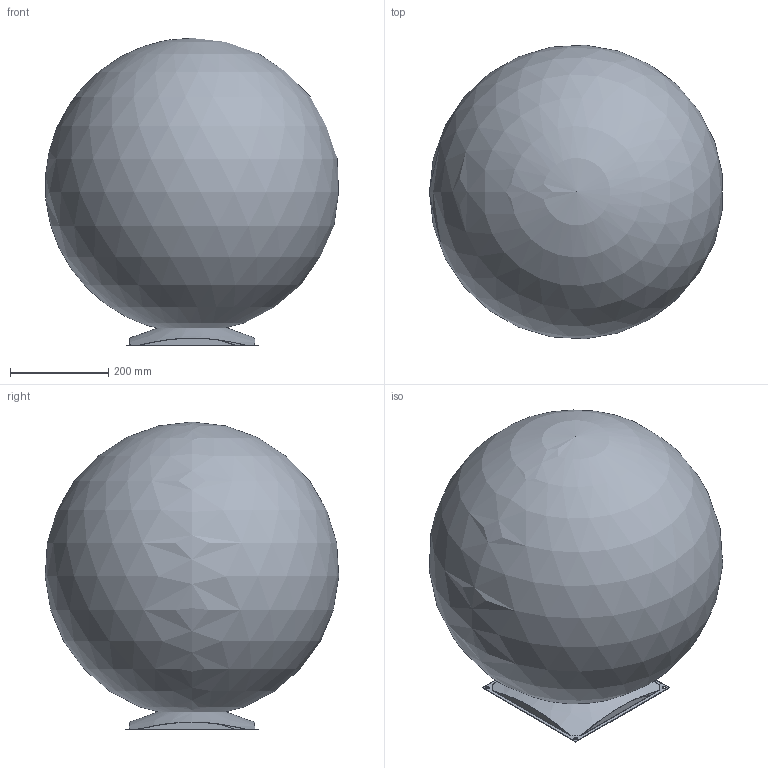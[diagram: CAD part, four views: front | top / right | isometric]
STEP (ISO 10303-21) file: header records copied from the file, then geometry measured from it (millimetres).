
FILE_DESCRIPTION(/* description */ (''),/* implementation_level */ '2;1');
FILE_NAME(/* name */ 'C:/Users/LukasGröber/GMS Cloud/Groeber Mannheim Lichtwerke - Dokumente/Marketing/Produkte/3D Daten/Snowball Edelstahlfuß/Snowball 60 Edelstahlfuß.step',/* time_stamp */ '2022-07-07T08:35:20+02:00',/* author */ (''),/* organization */ (''),/* preprocessor_version */ 'ST-DEVELOPER v19',/* originating_system */ 'Autodesk Translation Framework v11.7.0.108',/* authorisation */ '');
FILE_SCHEMA (('AUTOMOTIVE_DESIGN { 1 0 10303 214 3 1 1 }'));
Length unit declared in the file: millimetre
Products named in the file (3): Snowball 60 Edelstahlfuß; Edelstahlfuss-optisch; Snowball 600 Öffnung 80
Assembly tree (2 placements, depth 2):
  Snowball 60 Edelstahlfuß
    Edelstahlfuss-optisch
    Snowball 600 Öffnung 80
Bounding box: 596.95 x 598.27 x 627.32 mm (x, y, z)
Volume: 5579147 mm3; surface area: 2389323.6 mm2
Topology: 2 solids, 2 shells, 61 faces, 166 edges, 105 vertices
Faces by surface type: plane 46, cylinder 9, cone 4, sphere 2
Full cylindrical faces by diameter (mm): 7 x4, 8 x4, 80 x1
Entity records: 1999 total; most frequent: CARTESIAN_POINT 379, ORIENTED_EDGE 328, DIRECTION 326, EDGE_CURVE 164, AXIS2_PLACEMENT_3D 118, VERTEX_POINT 105, LINE 90, VECTOR 90
